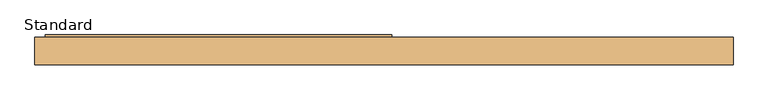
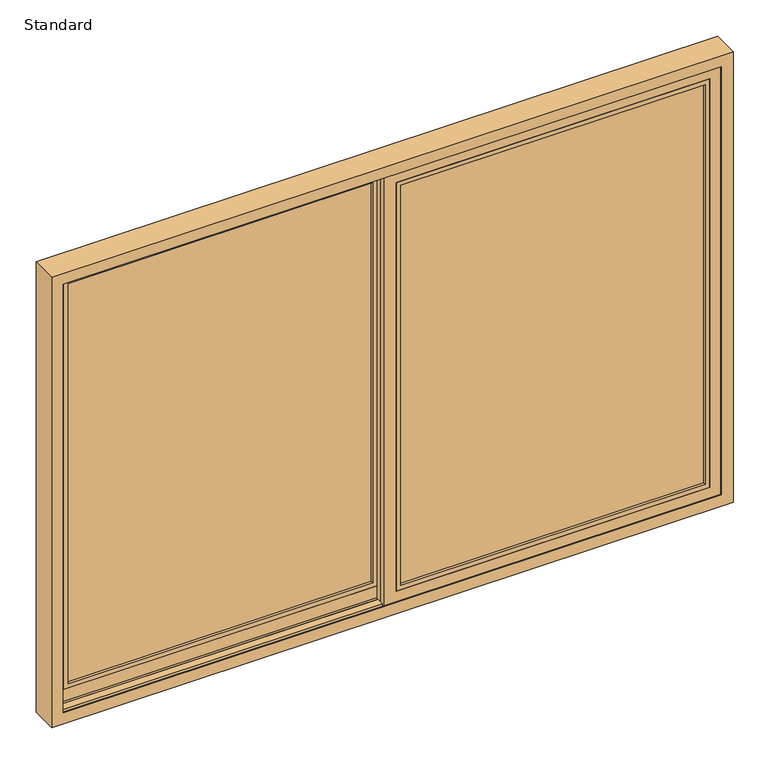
"""IFC4 building model written with IfcOpenShell, lengths in millimetres: door geometry, SMARTS_Visoglide Plus : Standard."""

from ifc_helpers import new_model, si_unit, frame, origin, place, context, project, spatial, polyline, outline, extrude, faceted_brep, source, transform, mapped, element, save


def standard_eb2c0629(model_context):
    return source(origin(), model_context, "Body", "SolidModel", [
        extrude(outline(polyline([(1392.5, -67.0), (26.5, -67.0), (26.5, -63.0), (1392.5, -63.0), (1392.5, -67.0)])), frame((0.0, 0.0, 907.5), z_axis=(0.0, 0.0, 1.0), x_axis=(1.0, 0.0, 0.0)), (0.0, 0.0, 1.0), 1885.0),
        extrude(outline(polyline([(1392.5, -47.0), (26.5, -47.0), (26.5, -43.0), (1392.5, -43.0), (1392.5, -47.0)])), frame((0.0, 0.0, 907.5), z_axis=(0.0, 0.0, 1.0), x_axis=(1.0, 0.0, 0.0)), (0.0, 0.0, 1.0), 1885.0),
        extrude(outline(polyline([(2792.5, 26.5), (907.5, 26.5), (907.5, 1392.5), (2792.5, 1392.5), (2792.5, 26.5)]), holes=[polyline([(2782.5, 1382.5), (917.5, 1382.5), (917.5, 36.5), (2782.5, 36.5), (2782.5, 1382.5)])]), frame((0.0, -63.0, 0.0), z_axis=(0.0, 1.0, 0.0), x_axis=(0.0, 0.0, 1.0)), (0.0, 0.0, 1.0), 16.0),
        extrude(outline(polyline([(2797.5, 1397.5), (2797.5, 21.5), (902.5, 21.5), (902.5, 1397.5), (2797.5, 1397.5)]), holes=[polyline([(922.5, 1377.5), (922.5, 41.5), (2777.5, 41.5), (2777.5, 1377.5), (922.5, 1377.5)])]), frame((0.0, -86.0, 0.0), z_axis=(0.0, 1.0, 0.0), x_axis=(0.0, 0.0, 1.0)), (0.0, 0.0, 1.0), 11.9897777),
        extrude(outline(polyline([(2851.5, 1451.5), (2851.5, -32.5), (848.5, -32.5), (848.5, 1451.5), (2851.5, 1451.5)]), holes=[polyline([(902.5, 1397.5), (902.5, 21.5), (2797.5, 21.5), (2797.5, 1397.5), (902.5, 1397.5)])]), frame((0.0, -86.0, 0.0), z_axis=(0.0, 1.0, 0.0), x_axis=(0.0, 0.0, 1.0)), (0.0, 0.0, 1.0), 24.0),
        faceted_brep([(1377.5, -39.0, 2777.5), (1377.5, -35.0, 2777.5), (1377.5, -35.0, 922.5), (1377.5, -39.0, 922.5), (1400.5, -62.0, 2800.5), (1400.5, -39.0, 2800.5), (1400.5, -39.0, 899.5), (1400.5, -62.0, 899.5), (1451.5, -35.0, 2851.5), (1451.5, -62.0, 2851.5), (1451.5, -62.0, 848.5), (1451.5, -35.0, 848.5), (41.5, -35.0, 922.5), (41.5, -39.0, 922.5), (18.5, -39.0, 899.5), (18.5, -62.0, 899.5), (-32.5, -62.0, 848.5), (-32.5, -35.0, 848.5), (41.5, -35.0, 2777.5), (41.5, -39.0, 2777.5), (18.5, -39.0, 2800.5), (18.5, -62.0, 2800.5), (-32.5, -62.0, 2851.5), (-32.5, -35.0, 2851.5)], [[[0, 1, 2, 3]], [[4, 5, 6, 7]], [[8, 9, 10, 11]], [[3, 2, 12, 13]], [[7, 6, 14, 15]], [[11, 10, 16, 17]], [[13, 12, 18, 19]], [[15, 14, 20, 21]], [[17, 16, 22, 23]], [[11, 17, 23, 8], [1, 18, 12, 2]], [[19, 18, 1, 0]], [[5, 20, 14, 6], [3, 13, 19, 0]], [[21, 20, 5, 4]], [[9, 22, 16, 10], [7, 15, 21, 4]], [[23, 22, 9, 8]]]),
        extrude(outline(polyline([(-26.5, 0.0), (-1392.5, 0.0), (-1392.5, 4.0), (-26.5, 4.0), (-26.5, 0.0)])), frame((0.0, 0.0, 907.5), z_axis=(0.0, 0.0, 1.0), x_axis=(1.0, 0.0, 0.0)), (0.0, 0.0, 1.0), 1885.0),
        extrude(outline(polyline([(-26.5, 20.0), (-1392.5, 20.0), (-1392.5, 24.0), (-26.5, 24.0), (-26.5, 20.0)])), frame((0.0, 0.0, 907.5), z_axis=(0.0, 0.0, 1.0), x_axis=(1.0, 0.0, 0.0)), (0.0, 0.0, 1.0), 1885.0),
        extrude(outline(polyline([(2792.5, -1392.5), (907.5, -1392.5), (907.5, -26.5), (2792.5, -26.5), (2792.5, -1392.5)]), holes=[polyline([(2782.5, -36.5), (917.5, -36.5), (917.5, -1382.5), (2782.5, -1382.5), (2782.5, -36.5)])]), frame((0.0, 4.0, 0.0), z_axis=(0.0, 1.0, 0.0), x_axis=(0.0, 0.0, 1.0)), (0.0, 0.0, 1.0), 16.0),
        extrude(outline(polyline([(2797.5, -21.5), (2797.5, -1397.5), (902.5, -1397.5), (902.5, -21.5), (2797.5, -21.5)]), holes=[polyline([(922.5, -41.5), (922.5, -1377.5), (2777.5, -1377.5), (2777.5, -41.5), (922.5, -41.5)])]), frame((0.0, -19.0, 0.0), z_axis=(0.0, 1.0, 0.0), x_axis=(0.0, 0.0, 1.0)), (0.0, 0.0, 1.0), 11.9897777),
        extrude(outline(polyline([(2851.5, 32.5), (2851.5, -1451.5), (848.5, -1451.5), (848.5, 32.5), (2851.5, 32.5)]), holes=[polyline([(902.5, -21.5), (902.5, -1397.5), (2797.5, -1397.5), (2797.5, -21.5), (902.5, -21.5)])]), frame((0.0, -19.0, 0.0), z_axis=(0.0, 1.0, 0.0), x_axis=(0.0, 0.0, 1.0)), (0.0, 0.0, 1.0), 24.0),
        faceted_brep([(-41.5, 28.0, 2777.5), (-41.5, 32.0, 2777.5), (-41.5, 32.0, 922.5), (-41.5, 28.0, 922.5), (-18.5, 5.0, 2800.5), (-18.5, 28.0, 2800.5), (-18.5, 28.0, 899.5), (-18.5, 5.0, 899.5), (32.5, 32.0, 2851.5), (32.5, 5.0, 2851.5), (32.5, 5.0, 848.5), (32.5, 32.0, 848.5), (-1377.5, 32.0, 922.5), (-1377.5, 28.0, 922.5), (-1400.5, 28.0, 899.5), (-1400.5, 5.0, 899.5), (-1451.5, 5.0, 848.5), (-1451.5, 32.0, 848.5), (-1377.5, 32.0, 2777.5), (-1377.5, 28.0, 2777.5), (-1400.5, 28.0, 2800.5), (-1400.5, 5.0, 2800.5), (-1451.5, 5.0, 2851.5), (-1451.5, 32.0, 2851.5)], [[[0, 1, 2, 3]], [[4, 5, 6, 7]], [[8, 9, 10, 11]], [[3, 2, 12, 13]], [[7, 6, 14, 15]], [[11, 10, 16, 17]], [[13, 12, 18, 19]], [[15, 14, 20, 21]], [[17, 16, 22, 23]], [[11, 17, 23, 8], [1, 18, 12, 2]], [[19, 18, 1, 0]], [[5, 20, 14, 6], [3, 13, 19, 0]], [[21, 20, 5, 4]], [[9, 22, 16, 10], [7, 15, 21, 4]], [[23, 22, 9, 8]]]),
        faceted_brep([(1495.0, -95.0, 2895.0), (1495.0, 22.7989407, 2895.0), (-1495.0, 22.7989407, 2895.0), (-1495.0, -95.0, 2895.0), (1443.1999999, -91.0, 2843.1999999), (1443.1999999, -95.0, 2843.1999999), (-1443.1999999, -95.0, 2843.1999999), (-1443.1999999, -91.0, 2843.1999999), (1469.1999999, -76.3, 2869.1999999), (1469.1999999, -91.0, 2869.1999999), (-1469.1999999, -91.0, 2869.1999999), (-1469.1999999, -76.3, 2869.1999999), (1443.1999999, -43.7842251, 2843.1999999), (1443.1999999, -76.3, 2843.1999999), (-1443.1999999, -76.3, 2843.1999999), (-1443.1999999, -43.7842251, 2843.1999999), (1469.1999999, -9.7842251, 2869.1999999), (1469.1999999, -43.7842251, 2869.1999999), (-1469.1999999, -43.7842251, 2869.1999999), (-1469.1999999, -9.7842251, 2869.1999999), (1443.1999999, 22.7989407, 2843.1999999), (1443.1999999, -9.7842251, 2843.1999999), (-1443.1999999, -9.7842251, 2843.1999999), (-1443.1999999, 22.7989407, 2843.1999999), (-1495.0, 22.7989407, 805.0), (-1495.0, -95.0, 805.0), (-1443.1999999, -95.0, 856.8000001), (-1443.1999999, -91.0, 856.8000001), (-1469.1999999, -91.0, 830.8000001), (-1469.1999999, -76.3, 830.8000001), (-1443.1999999, -76.3, 856.8000001), (-1443.1999999, -43.7842251, 856.8000001), (-1469.1999999, -43.7842251, 830.8000001), (-1469.1999999, -9.7842251, 830.8000001), (-1443.1999999, -9.7842251, 856.8000001), (-1443.1999999, 22.7989407, 856.8000001), (1495.0, 22.7989407, 805.0), (1495.0, -95.0, 805.0), (1443.1999999, -95.0, 856.8000001), (1443.1999999, -91.0, 856.8000001), (1469.1999999, -91.0, 830.8000001), (1469.1999999, -76.3, 830.8000001), (1443.1999999, -76.3, 856.8000001), (1443.1999999, -43.7842251, 856.8000001), (1469.1999999, -43.7842251, 830.8000001), (1469.1999999, -9.7842251, 830.8000001), (1443.1999999, -9.7842251, 856.8000001), (1443.1999999, 22.7989407, 856.8000001)], [[[0, 1, 2, 3]], [[4, 5, 6, 7]], [[8, 9, 10, 11]], [[12, 13, 14, 15]], [[16, 17, 18, 19]], [[20, 21, 22, 23]], [[3, 2, 24, 25]], [[7, 6, 26, 27]], [[11, 10, 28, 29]], [[15, 14, 30, 31]], [[19, 18, 32, 33]], [[23, 22, 34, 35]], [[25, 24, 36, 37]], [[27, 26, 38, 39]], [[29, 28, 40, 41]], [[31, 30, 42, 43]], [[33, 32, 44, 45]], [[35, 34, 46, 47]], [[37, 36, 1, 0]], [[3, 25, 37, 0], [5, 38, 26, 6]], [[39, 38, 5, 4]], [[9, 40, 28, 10], [7, 27, 39, 4]], [[41, 40, 9, 8]], [[11, 29, 41, 8], [13, 42, 30, 14]], [[43, 42, 13, 12]], [[17, 44, 32, 18], [15, 31, 43, 12]], [[45, 44, 17, 16]], [[19, 33, 45, 16], [21, 46, 34, 22]], [[47, 46, 21, 20]], [[1, 36, 24, 2], [23, 35, 47, 20]]]),
    ])


if __name__ == "__main__":
    model = new_model("IFC4")
    model_context = context("Model", 3, world=origin())
    ifc_project = project(units=[si_unit("LENGTHUNIT", "METRE", prefix="MILLI")], contexts=[model_context])
    site = spatial("IfcSite", under=ifc_project)
    building = spatial("IfcBuilding", under=site)
    placement = place(None, origin())
    standard_shape = standard_eb2c0629(model_context)
    element("IfcDoor", 1, ObjectType="SMARTS_Visoglide Plus : Standard", at=placement, inside=building, context=model_context, shape_type="MappedRepresentation", body=[
        mapped(standard_shape, transform((0.0, 0.0, 0.0), x_axis=(1.0, 0.0, 0.0), y_axis=(0.0, 1.0, 0.0), z_axis=(0.0, 0.0, 1.0))),
    ])
    save(model, "model.ifc")
